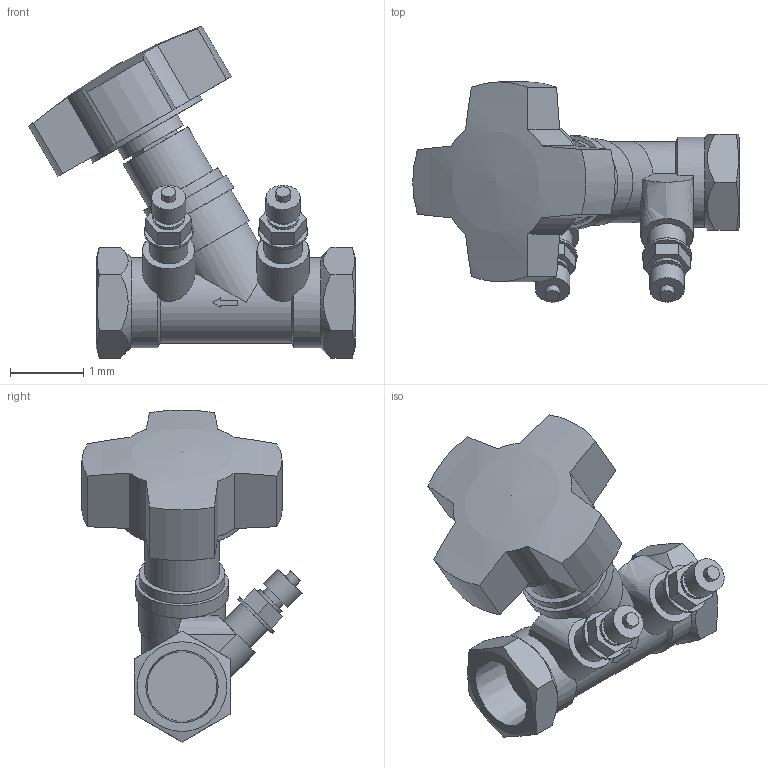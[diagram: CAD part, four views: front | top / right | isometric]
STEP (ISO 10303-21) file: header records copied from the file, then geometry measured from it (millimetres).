
FILE_DESCRIPTION(('Open CASCADE Model'),'2;1');
FILE_NAME('Open CASCADE Shape Model','2021-09-29T13:52:19',('Author'),( 'Open CASCADE'),'Open CASCADE STEP processor 7.3','Open CASCADE 7.3' ,'Unknown');
FILE_SCHEMA(('AUTOMOTIVE_DESIGN { 1 0 10303 214 1 1 1 1 }'));
Length unit declared in the file: millimetre
Products named in the file (1): Open CASCADE STEP translator 7.3 1
Bounding box: 4.47 x 3.01 x 4.55 mm (x, y, z)
Volume: 10.2 mm3; surface area: 50.8 mm2
Topology: 1 solids, 1 shells, 141 faces, 334 edges, 218 vertices
Faces by surface type: plane 98, cylinder 32, cone 8, extrusion 2, sphere 1
Full cylindrical faces by diameter (mm): 0.195 x2, 0.32 x2, 0.43 x2, 0.47 x2, 0.525 x2, 0.67 x2, 0.94 x1, 1.023 x1, 1.171 x1, 1.185 x1, 1.235 x2, 1.275 x1, 1.737 x1
Entity records: 10530 total; most frequent: CARTESIAN_POINT 4065, DIRECTION 1162, ORIENTED_EDGE 666, PCURVE 666, DEFINITIONAL_REPRESENTATION 666, VECTOR 603, LINE 601, EDGE_CURVE 333
